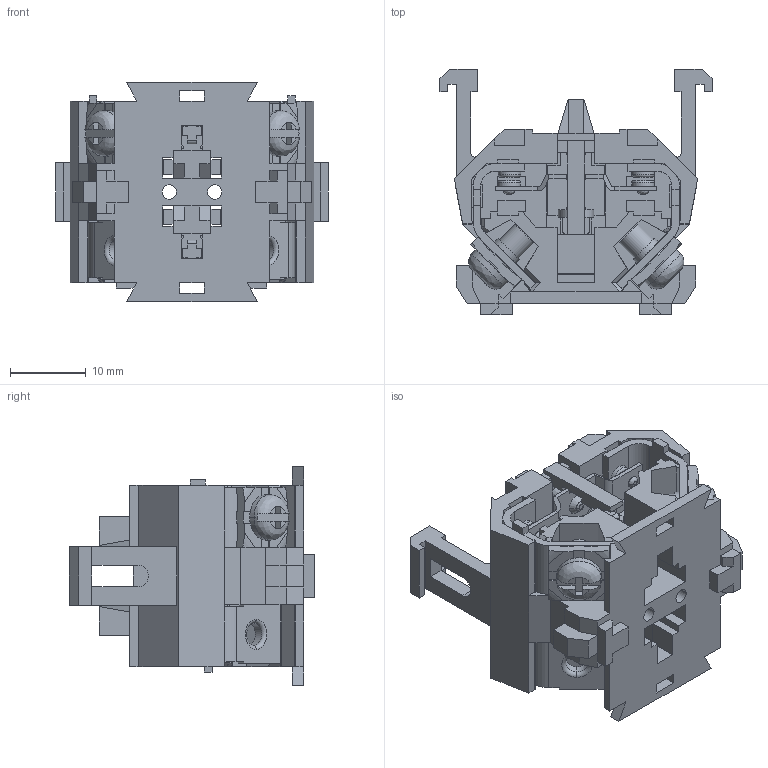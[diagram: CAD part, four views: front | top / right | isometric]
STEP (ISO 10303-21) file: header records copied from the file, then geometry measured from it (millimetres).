
FILE_DESCRIPTION((''),'2;1');
FILE_NAME('SLOW_ACTION_2008_06_15_ASM','2014-04-10T',('Administrator'),(''),'PRO/ENGINEER BY PARAMETRIC TECHNOLOGY CORPORATION, 2008380','PRO/ENGINEER BY PARAMETRIC TECHNOLOGY CORPORATION, 2008380','');
FILE_SCHEMA(('CONFIG_CONTROL_DESIGN'));
Length unit declared in the file: millimetre
Products named in the file (10): 06_11_SLOW_ACTION; 06_12_COPPER_FEET; 06_12_BRACKET; 06_12_MEETPIECE; 8SK_550_002; 8SK_150_002; LOUSI; 5_850_002_ASM; JIANCHUTOU_6_29; SLOW_ACTION_2008_06_15_ASM
Assembly tree (21 placements, depth 3):
  SLOW_ACTION_2008_06_15_ASM
    06_11_SLOW_ACTION
    06_12_COPPER_FEET  x2
    06_12_BRACKET  x2
    06_12_MEETPIECE  x2
    8SK_550_002  x8
    5_850_002_ASM  x2
      8SK_150_002
      LOUSI
    JIANCHUTOU_6_29  x2
Bounding box: 36 x 32.5 x 29 mm (x, y, z)
Volume: 9142.8 mm3; surface area: 12749.5 mm2
Topology: 21 solids, 31 shells, 1106 faces, 3032 edges, 1980 vertices
Faces by surface type: plane 868, cylinder 150, bspline 40, torus 28, cone 20
Entity records: 24720 total; most frequent: CARTESIAN_POINT 5070, ORIENTED_EDGE 4182, DIRECTION 3765, EDGE_CURVE 2099, VECTOR 1863, LINE 1863, VERTEX_POINT 1382, AXIS2_PLACEMENT_3D 951
